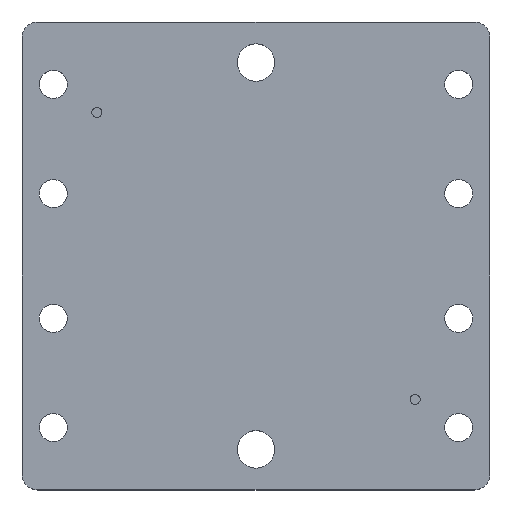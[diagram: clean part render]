
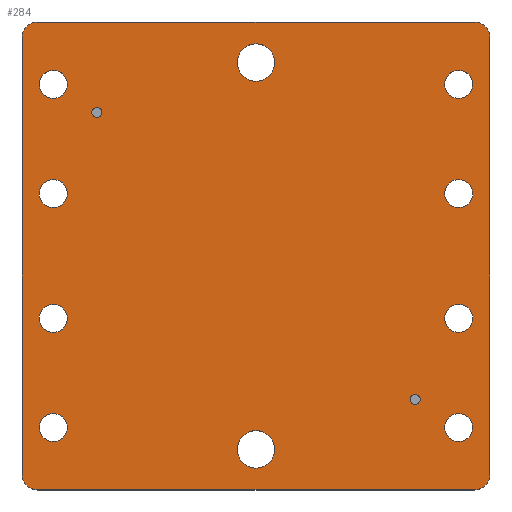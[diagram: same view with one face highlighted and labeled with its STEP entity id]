
A CAD part, top view. The second image highlights one B-rep face of the part: STEP entity #284.
In plain terms, the highlighted planar face has unit normal (0, 0, 1).
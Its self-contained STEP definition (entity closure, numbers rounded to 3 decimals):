
#24 = VERTEX_POINT('',#25);
#25 = CARTESIAN_POINT('',(-70.,-75.,12.));
#31 = EDGE_CURVE('',#24,#32,#34,.T.);
#32 = VERTEX_POINT('',#33);
#33 = CARTESIAN_POINT('',(70.,-75.,12.));
#34 = LINE('',#35,#36);
#35 = CARTESIAN_POINT('',(-70.,-75.,12.));
#36 = VECTOR('',#37,1.);
#37 = DIRECTION('',(1.,0.,0.));
#64 = VERTEX_POINT('',#65);
#65 = CARTESIAN_POINT('',(-75.,-70.,12.));
#71 = EDGE_CURVE('',#64,#24,#72,.T.);
#72 = CIRCLE('',#73,5.);
#73 = AXIS2_PLACEMENT_3D('',#74,#75,#76);
#74 = CARTESIAN_POINT('',(-70.,-70.,12.));
#75 = DIRECTION('',(0.,0.,1.));
#76 = DIRECTION('',(1.,0.,0.));
#95 = EDGE_CURVE('',#32,#96,#98,.T.);
#96 = VERTEX_POINT('',#97);
#97 = CARTESIAN_POINT('',(75.,-70.,12.));
#98 = CIRCLE('',#99,5.);
#99 = AXIS2_PLACEMENT_3D('',#100,#101,#102);
#100 = CARTESIAN_POINT('',(70.,-70.,12.));
#101 = DIRECTION('',(0.,0.,1.));
#102 = DIRECTION('',(1.,0.,0.));
#284 = ADVANCED_FACE('',(#285,#330,#341,#352,#363,#374,#385,#396,#407,
    #418,#429,#440,#451),#462,.T.);
#285 = FACE_BOUND('',#286,.T.);
#286 = EDGE_LOOP('',(#287,#288,#289,#297,#306,#314,#323,#329));
#287 = ORIENTED_EDGE('',*,*,#31,.T.);
#288 = ORIENTED_EDGE('',*,*,#95,.T.);
#289 = ORIENTED_EDGE('',*,*,#290,.T.);
#290 = EDGE_CURVE('',#96,#291,#293,.T.);
#291 = VERTEX_POINT('',#292);
#292 = CARTESIAN_POINT('',(75.,70.,12.));
#293 = LINE('',#294,#295);
#294 = CARTESIAN_POINT('',(75.,-70.,12.));
#295 = VECTOR('',#296,1.);
#296 = DIRECTION('',(0.,1.,0.));
#297 = ORIENTED_EDGE('',*,*,#298,.T.);
#298 = EDGE_CURVE('',#291,#299,#301,.T.);
#299 = VERTEX_POINT('',#300);
#300 = CARTESIAN_POINT('',(70.,75.,12.));
#301 = CIRCLE('',#302,5.);
#302 = AXIS2_PLACEMENT_3D('',#303,#304,#305);
#303 = CARTESIAN_POINT('',(70.,70.,12.));
#304 = DIRECTION('',(0.,0.,1.));
#305 = DIRECTION('',(1.,0.,0.));
#306 = ORIENTED_EDGE('',*,*,#307,.T.);
#307 = EDGE_CURVE('',#299,#308,#310,.T.);
#308 = VERTEX_POINT('',#309);
#309 = CARTESIAN_POINT('',(-70.,75.,12.));
#310 = LINE('',#311,#312);
#311 = CARTESIAN_POINT('',(70.,75.,12.));
#312 = VECTOR('',#313,1.);
#313 = DIRECTION('',(-1.,0.,0.));
#314 = ORIENTED_EDGE('',*,*,#315,.T.);
#315 = EDGE_CURVE('',#308,#316,#318,.T.);
#316 = VERTEX_POINT('',#317);
#317 = CARTESIAN_POINT('',(-75.,70.,12.));
#318 = CIRCLE('',#319,5.);
#319 = AXIS2_PLACEMENT_3D('',#320,#321,#322);
#320 = CARTESIAN_POINT('',(-70.,70.,12.));
#321 = DIRECTION('',(0.,0.,1.));
#322 = DIRECTION('',(1.,0.,0.));
#323 = ORIENTED_EDGE('',*,*,#324,.T.);
#324 = EDGE_CURVE('',#316,#64,#325,.T.);
#325 = LINE('',#326,#327);
#326 = CARTESIAN_POINT('',(-75.,70.,12.));
#327 = VECTOR('',#328,1.);
#328 = DIRECTION('',(0.,-1.,0.));
#329 = ORIENTED_EDGE('',*,*,#71,.T.);
#330 = FACE_BOUND('',#331,.T.);
#331 = EDGE_LOOP('',(#332));
#332 = ORIENTED_EDGE('',*,*,#333,.F.);
#333 = EDGE_CURVE('',#334,#334,#336,.T.);
#334 = VERTEX_POINT('',#335);
#335 = CARTESIAN_POINT('',(-60.5,-55.,12.));
#336 = CIRCLE('',#337,4.5);
#337 = AXIS2_PLACEMENT_3D('',#338,#339,#340);
#338 = CARTESIAN_POINT('',(-65.,-55.,12.));
#339 = DIRECTION('',(0.,0.,1.));
#340 = DIRECTION('',(1.,0.,0.));
#341 = FACE_BOUND('',#342,.T.);
#342 = EDGE_LOOP('',(#343));
#343 = ORIENTED_EDGE('',*,*,#344,.F.);
#344 = EDGE_CURVE('',#345,#345,#347,.T.);
#345 = VERTEX_POINT('',#346);
#346 = CARTESIAN_POINT('',(-60.5,-20.,12.));
#347 = CIRCLE('',#348,4.5);
#348 = AXIS2_PLACEMENT_3D('',#349,#350,#351);
#349 = CARTESIAN_POINT('',(-65.,-20.,12.));
#350 = DIRECTION('',(0.,0.,1.));
#351 = DIRECTION('',(1.,0.,0.));
#352 = FACE_BOUND('',#353,.T.);
#353 = EDGE_LOOP('',(#354));
#354 = ORIENTED_EDGE('',*,*,#355,.F.);
#355 = EDGE_CURVE('',#356,#356,#358,.T.);
#356 = VERTEX_POINT('',#357);
#357 = CARTESIAN_POINT('',(6.,-62.,12.));
#358 = CIRCLE('',#359,6.);
#359 = AXIS2_PLACEMENT_3D('',#360,#361,#362);
#360 = CARTESIAN_POINT('',(0.,-62.,12.));
#361 = DIRECTION('',(0.,0.,1.));
#362 = DIRECTION('',(1.,0.,0.));
#363 = FACE_BOUND('',#364,.T.);
#364 = EDGE_LOOP('',(#365));
#365 = ORIENTED_EDGE('',*,*,#366,.F.);
#366 = EDGE_CURVE('',#367,#367,#369,.T.);
#367 = VERTEX_POINT('',#368);
#368 = CARTESIAN_POINT('',(69.5,-55.,12.));
#369 = CIRCLE('',#370,4.5);
#370 = AXIS2_PLACEMENT_3D('',#371,#372,#373);
#371 = CARTESIAN_POINT('',(65.,-55.,12.));
#372 = DIRECTION('',(0.,0.,1.));
#373 = DIRECTION('',(1.,0.,0.));
#374 = FACE_BOUND('',#375,.T.);
#375 = EDGE_LOOP('',(#376));
#376 = ORIENTED_EDGE('',*,*,#377,.F.);
#377 = EDGE_CURVE('',#378,#378,#380,.T.);
#378 = VERTEX_POINT('',#379);
#379 = CARTESIAN_POINT('',(52.6,-46.,12.));
#380 = CIRCLE('',#381,1.6);
#381 = AXIS2_PLACEMENT_3D('',#382,#383,#384);
#382 = CARTESIAN_POINT('',(51.,-46.,12.));
#383 = DIRECTION('',(0.,0.,1.));
#384 = DIRECTION('',(1.,0.,0.));
#385 = FACE_BOUND('',#386,.T.);
#386 = EDGE_LOOP('',(#387));
#387 = ORIENTED_EDGE('',*,*,#388,.F.);
#388 = EDGE_CURVE('',#389,#389,#391,.T.);
#389 = VERTEX_POINT('',#390);
#390 = CARTESIAN_POINT('',(69.5,-20.,12.));
#391 = CIRCLE('',#392,4.5);
#392 = AXIS2_PLACEMENT_3D('',#393,#394,#395);
#393 = CARTESIAN_POINT('',(65.,-20.,12.));
#394 = DIRECTION('',(0.,0.,1.));
#395 = DIRECTION('',(1.,0.,0.));
#396 = FACE_BOUND('',#397,.T.);
#397 = EDGE_LOOP('',(#398));
#398 = ORIENTED_EDGE('',*,*,#399,.F.);
#399 = EDGE_CURVE('',#400,#400,#402,.T.);
#400 = VERTEX_POINT('',#401);
#401 = CARTESIAN_POINT('',(-60.5,20.,12.));
#402 = CIRCLE('',#403,4.5);
#403 = AXIS2_PLACEMENT_3D('',#404,#405,#406);
#404 = CARTESIAN_POINT('',(-65.,20.,12.));
#405 = DIRECTION('',(0.,0.,1.));
#406 = DIRECTION('',(1.,0.,0.));
#407 = FACE_BOUND('',#408,.T.);
#408 = EDGE_LOOP('',(#409));
#409 = ORIENTED_EDGE('',*,*,#410,.F.);
#410 = EDGE_CURVE('',#411,#411,#413,.T.);
#411 = VERTEX_POINT('',#412);
#412 = CARTESIAN_POINT('',(-49.4,46.,12.));
#413 = CIRCLE('',#414,1.6);
#414 = AXIS2_PLACEMENT_3D('',#415,#416,#417);
#415 = CARTESIAN_POINT('',(-51.,46.,12.));
#416 = DIRECTION('',(0.,0.,1.));
#417 = DIRECTION('',(1.,0.,0.));
#418 = FACE_BOUND('',#419,.T.);
#419 = EDGE_LOOP('',(#420));
#420 = ORIENTED_EDGE('',*,*,#421,.F.);
#421 = EDGE_CURVE('',#422,#422,#424,.T.);
#422 = VERTEX_POINT('',#423);
#423 = CARTESIAN_POINT('',(-60.5,55.,12.));
#424 = CIRCLE('',#425,4.5);
#425 = AXIS2_PLACEMENT_3D('',#426,#427,#428);
#426 = CARTESIAN_POINT('',(-65.,55.,12.));
#427 = DIRECTION('',(0.,0.,1.));
#428 = DIRECTION('',(1.,0.,0.));
#429 = FACE_BOUND('',#430,.T.);
#430 = EDGE_LOOP('',(#431));
#431 = ORIENTED_EDGE('',*,*,#432,.F.);
#432 = EDGE_CURVE('',#433,#433,#435,.T.);
#433 = VERTEX_POINT('',#434);
#434 = CARTESIAN_POINT('',(69.5,20.,12.));
#435 = CIRCLE('',#436,4.5);
#436 = AXIS2_PLACEMENT_3D('',#437,#438,#439);
#437 = CARTESIAN_POINT('',(65.,20.,12.));
#438 = DIRECTION('',(0.,0.,1.));
#439 = DIRECTION('',(1.,0.,0.));
#440 = FACE_BOUND('',#441,.T.);
#441 = EDGE_LOOP('',(#442));
#442 = ORIENTED_EDGE('',*,*,#443,.F.);
#443 = EDGE_CURVE('',#444,#444,#446,.T.);
#444 = VERTEX_POINT('',#445);
#445 = CARTESIAN_POINT('',(6.,62.,12.));
#446 = CIRCLE('',#447,6.);
#447 = AXIS2_PLACEMENT_3D('',#448,#449,#450);
#448 = CARTESIAN_POINT('',(0.,62.,12.));
#449 = DIRECTION('',(0.,0.,1.));
#450 = DIRECTION('',(1.,0.,0.));
#451 = FACE_BOUND('',#452,.T.);
#452 = EDGE_LOOP('',(#453));
#453 = ORIENTED_EDGE('',*,*,#454,.F.);
#454 = EDGE_CURVE('',#455,#455,#457,.T.);
#455 = VERTEX_POINT('',#456);
#456 = CARTESIAN_POINT('',(69.5,55.,12.));
#457 = CIRCLE('',#458,4.5);
#458 = AXIS2_PLACEMENT_3D('',#459,#460,#461);
#459 = CARTESIAN_POINT('',(65.,55.,12.));
#460 = DIRECTION('',(0.,0.,1.));
#461 = DIRECTION('',(1.,0.,0.));
#462 = PLANE('',#463);
#463 = AXIS2_PLACEMENT_3D('',#464,#465,#466);
#464 = CARTESIAN_POINT('',(0.,0.,12.)
  );
#465 = DIRECTION('',(0.,0.,1.));
#466 = DIRECTION('',(1.,0.,0.));
